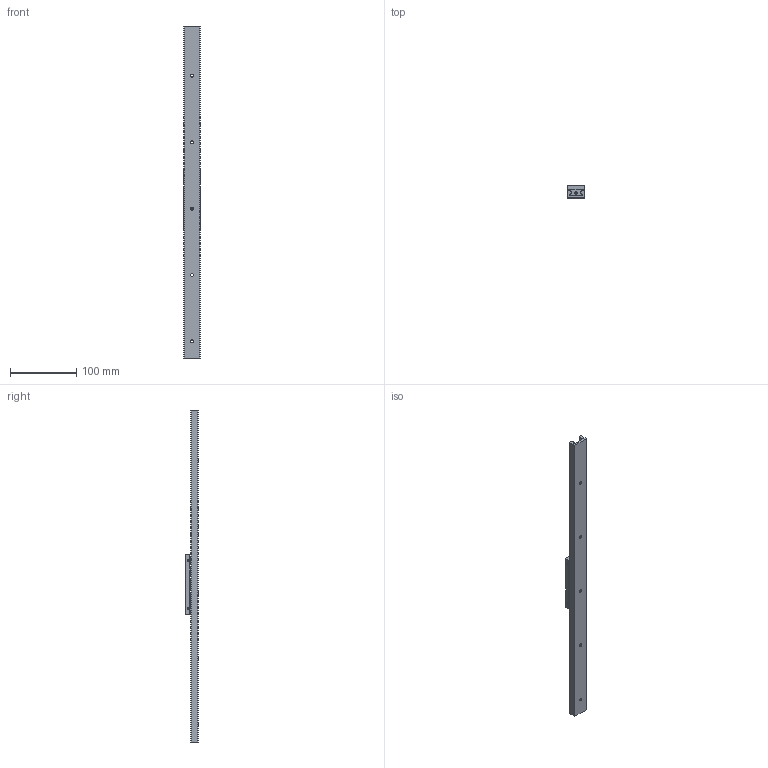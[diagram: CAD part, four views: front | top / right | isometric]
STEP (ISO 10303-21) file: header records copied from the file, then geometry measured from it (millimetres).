
FILE_DESCRIPTION (( 'STEP AP214' ), '1' );
FILE_NAME ('LSIJ2519.STEP', '2023-10-27T00:27:13', ( '' ), ( '' ), 'SwSTEP 2.0', 'SolidWorks 2019', '' );
FILE_SCHEMA (( 'AUTOMOTIVE_DESIGN' ));
Length unit declared in the file: millimetre
Products named in the file (3): LSIJ2519; LSIJ2519キャリッジ; LSIJ2519レール
Assembly tree (2 placements, depth 2):
  LSIJ2519
    LSIJ2519レール
    LSIJ2519キャリッジ
Bounding box: 25 x 19 x 500 mm (x, y, z)
Volume: 91980.7 mm3; surface area: 58982.3 mm2
Topology: 8 solids, 8 shells, 452 faces, 1123 edges, 734 vertices
Faces by surface type: plane 287, cylinder 98, cone 52, torus 11, sphere 4
Full cylindrical faces by diameter (mm): 3 x4, 3.3 x4, 4.5 x5, 5 x3, 8.6 x6, 10 x3, 14 x3, 16 x6
Entity records: 17813 total; most frequent: CARTESIAN_POINT 2569, DIRECTION 2154, ORIENTED_EDGE 2096, EDGE_CURVE 1048, AXIS2_PLACEMENT_3D 737, VERTEX_POINT 720, VECTOR 680, LINE 680
